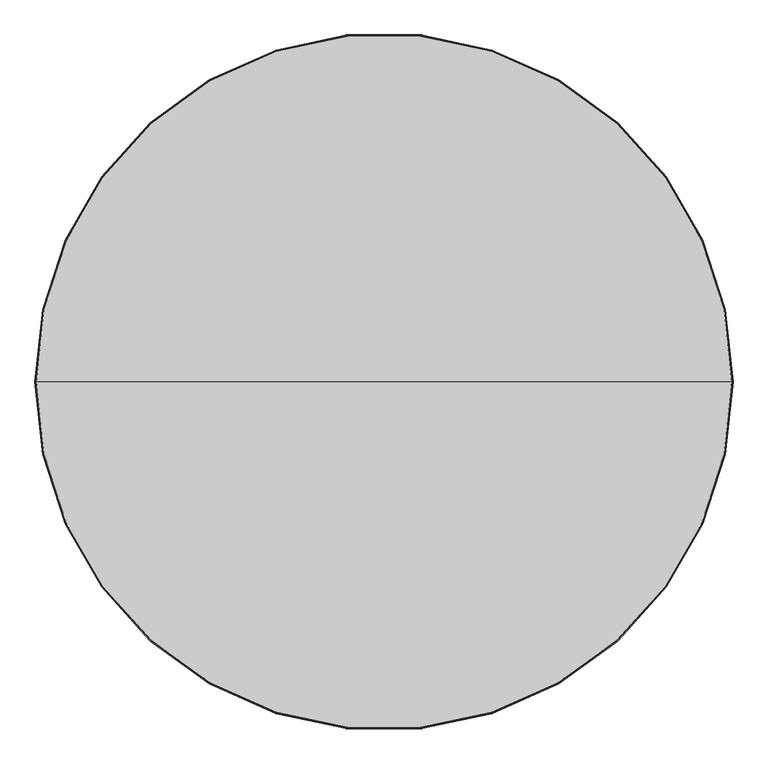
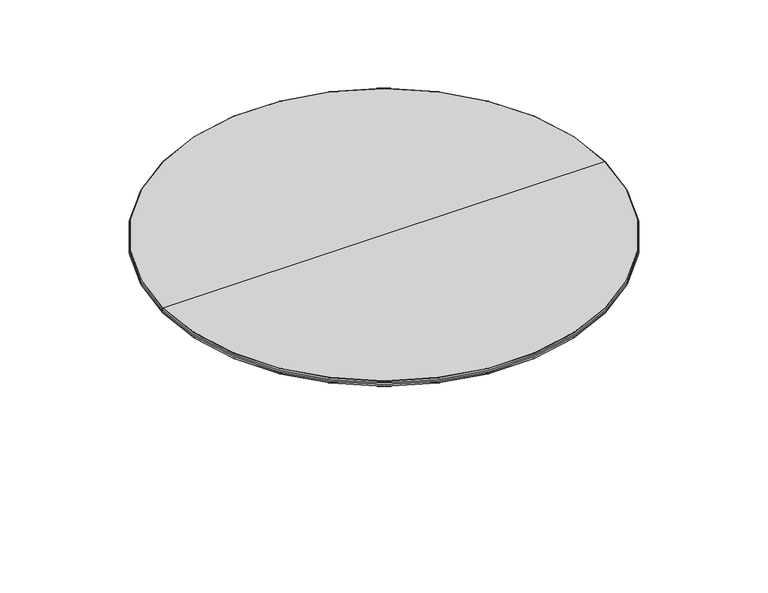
"""IFC4 building model written with IfcOpenShell, lengths in millimetres: furniture geometry, Furniture_Wilkhahn_622-45_Logon Circular Table : Logon 622/45_2000D x 730H."""

from ifc_helpers import new_model, si_unit, point, frame, frame_2d, origin, place, context, project, spatial, circle_curve, ellipse_curve, trimmed, segment, composite_curve, outline, extrude, source, transform, mapped, element, save
from ifc_brep_helpers import plane_surface, revolved_surface, advanced_brep


def furniture_f511a58c(model_context):
    return source(origin(), model_context, "Body", "SolidModel", [
        extrude(outline(composite_curve([segment(trimmed(circle_curve(frame_2d((603.0, 25.9511544)), 20.0), [point((603.0, 5.9511544))], [point((603.0, 45.9511544))], False, "CARTESIAN"), True, "CONTINUOUS"), segment(trimmed(circle_curve(frame_2d((603.0, 25.9511544)), 20.0), [point((603.0, 45.9511544))], [point((603.0, 5.9511544))], False, "CARTESIAN"), True, "CONTINUOUS")], self_intersect=False)), frame((0.0, 0.0, 140.0), z_axis=(0.0, 0.0, 1.0), x_axis=(1.0, 0.0, 0.0)), (0.0, 0.0, 1.0), 535.0),
        extrude(outline(composite_curve([segment(trimmed(circle_curve(frame_2d((497.0, 25.9511544)), 20.0), [point((497.0, 5.9511544))], [point((497.0, 45.9511544))], False, "CARTESIAN"), True, "CONTINUOUS"), segment(trimmed(circle_curve(frame_2d((497.0, 25.9511544)), 20.0), [point((497.0, 45.9511544))], [point((497.0, 5.9511544))], False, "CARTESIAN"), True, "CONTINUOUS")], self_intersect=False)), frame((0.0, 0.0, 140.0), z_axis=(0.0, 0.0, 1.0), x_axis=(1.0, 0.0, 0.0)), (0.0, 0.0, 1.0), 535.0),
        advanced_brep(
        [(0.0, 25.9511544, 703.9999792), (996.2480634, 25.9511544, 703.9999792), (-996.2480634, 25.9511544, 703.9999792), (-996.2480634, 25.9511544, 730.0), (996.2480634, 25.9511544, 730.0), (0.0, 25.9511544, 730.0), (-997.6906196, 25.9511544, 728.7664759), (997.6906196, 25.9511544, 728.7664759), (-998.5009853, 25.9511544, 720.5783163), (998.5009853, 25.9511544, 720.5783163), (-998.5009853, 25.9511544, 713.4216629), (998.5009853, 25.9511544, 713.4216629), (-997.6906196, 25.9511544, 705.2335033), (997.6906196, 25.9511544, 705.2335033)],
        [
            (0, 1),
            (1, 2, circle_curve(frame((0.0, 25.9511544, 703.9999792), z_axis=(0.0, 0.0, -1.0), x_axis=(1.0, 0.0, 0.0)), 996.2480634)),
            (2, 0),
            (2, 1, circle_curve(frame((0.0, 25.9511544, 703.9999792), z_axis=(0.0, 0.0, -1.0), x_axis=(1.0, 0.0, 0.0)), 996.2480634)),
            (3, 4, circle_curve(frame((0.0, 25.9511544, 730.0), z_axis=(0.0, 0.0, 1.0), x_axis=(1.0, 0.0, 0.0)), 996.2480634)),
            (4, 5),
            (5, 3),
            (4, 3, circle_curve(frame((0.0, 25.9511544, 730.0), z_axis=(0.0, 0.0, 1.0), x_axis=(1.0, 0.0, 0.0)), 996.2480634)),
            (6, 7, circle_curve(frame((0.0, 25.9511544, 728.7664759), z_axis=(0.0, 0.0, 1.0), x_axis=(1.0, 0.0, 0.0)), 997.6906196)),
            (7, 4, circle_curve(frame((996.2480634, 25.9511544, 728.5397326), z_axis=(0.0, -1.0, 0.0), x_axis=(-1.0, 0.0, 0.0)), 1.4602674)),
            (3, 6, circle_curve(frame((-996.2480634, 25.9511544, 728.5397326), z_axis=(0.0, -1.0, 0.0), x_axis=(1.0, 0.0, 0.0)), 1.4602674)),
            (7, 6, circle_curve(frame((0.0, 25.9511544, 728.7664759), z_axis=(0.0, 0.0, 1.0), x_axis=(1.0, 0.0, 0.0)), 997.6906196)),
            (8, 9, circle_curve(frame((0.0, 25.9511544, 720.5783163), z_axis=(0.0, 0.0, 1.0), x_axis=(1.0, 0.0, 0.0)), 998.5009853)),
            (9, 7, circle_curve(frame((926.673171, 25.9511544, 717.6038415), z_axis=(0.0, -1.0, 0.0), x_axis=(-1.0, 0.0, 0.0)), 71.8893762)),
            (6, 8, circle_curve(frame((-926.673171, 25.9511544, 717.6038415), z_axis=(0.0, -1.0, 0.0), x_axis=(1.0, 0.0, 0.0)), 71.8893762)),
            (9, 8, circle_curve(frame((0.0, 25.9511544, 720.5783163), z_axis=(0.0, 0.0, 1.0), x_axis=(1.0, 0.0, 0.0)), 998.5009853)),
            (10, 11, circle_curve(frame((0.0, 25.9511544, 713.4216629), z_axis=(0.0, 0.0, 1.0), x_axis=(1.0, 0.0, 0.0)), 998.5009853)),
            (11, 9, circle_curve(frame((995.0306299, 25.9511544, 716.9999896), z_axis=(0.0, -1.0, 0.0), x_axis=(-1.0, 0.0, 0.0)), 4.9847556)),
            (8, 10, circle_curve(frame((-995.0306299, 25.9511544, 716.9999896), z_axis=(0.0, -1.0, 0.0), x_axis=(1.0, 0.0, 0.0)), 4.9847556)),
            (11, 10, circle_curve(frame((0.0, 25.9511544, 713.4216629), z_axis=(0.0, 0.0, 1.0), x_axis=(1.0, 0.0, 0.0)), 998.5009853)),
            (12, 13, circle_curve(frame((0.0, 25.9511544, 705.2335033), z_axis=(0.0, 0.0, 1.0), x_axis=(1.0, 0.0, 0.0)), 997.6906196)),
            (13, 11, circle_curve(frame((926.673171, 25.9511544, 716.3961377), z_axis=(0.0, -1.0, 0.0), x_axis=(-1.0, 0.0, 0.0)), 71.8893762)),
            (10, 12, circle_curve(frame((-926.673171, 25.9511544, 716.3961377), z_axis=(0.0, -1.0, 0.0), x_axis=(1.0, 0.0, 0.0)), 71.8893762)),
            (13, 12, circle_curve(frame((0.0, 25.9511544, 705.2335033), z_axis=(0.0, 0.0, 1.0), x_axis=(1.0, 0.0, 0.0)), 997.6906196)),
            (1, 13, circle_curve(frame((996.2480634, 25.9511544, 705.4602466), z_axis=(0.0, -1.0, 0.0), x_axis=(-1.0, 0.0, 0.0)), 1.4602674)),
            (12, 2, circle_curve(frame((-996.2480634, 25.9511544, 705.4602466), z_axis=(0.0, -1.0, 0.0), x_axis=(1.0, 0.0, 0.0)), 1.4602674)),
        ],
        [
            plane_surface(frame((0.0, 25.9511544, 703.9999792), z_axis=(0.0, 0.0, -1.0), x_axis=(1.0, 0.0, 0.0))),
            plane_surface(frame((0.0, 25.9511544, 730.0), z_axis=(0.0, 0.0, 1.0), x_axis=(1.0, 0.0, 0.0))),
            revolved_surface(trimmed(ellipse_curve(frame((996.2480634, 25.9511544, 728.5397326), z_axis=(0.0, 1.0, 0.0), x_axis=(-1.0, 0.0, 0.0)), 1.4602674, 1.4602674), [point((996.2480634, 25.9511544, 730.0))], [point((997.6906196, 25.9511544, 728.7664759))], True, "CARTESIAN"), (0.0, 25.9511544, 790.0), (0.0, 0.0, -1.0)),
            revolved_surface(trimmed(ellipse_curve(frame((926.673171, 25.9511544, 717.6038415), z_axis=(0.0, 1.0, 0.0), x_axis=(-1.0, 0.0, 0.0)), 71.8893762, 71.8893762), [point((997.6906196, 25.9511544, 728.7664759))], [point((998.5009853, 25.9511544, 720.5783163))], True, "CARTESIAN"), (0.0, 25.9511544, 790.0), (0.0, 0.0, -1.0)),
            revolved_surface(trimmed(ellipse_curve(frame((995.0306299, 25.9511544, 716.9999896), z_axis=(0.0, 1.0, 0.0), x_axis=(-1.0, 0.0, 0.0)), 4.9847556, 4.9847556), [point((998.5009853, 25.9511544, 720.5783163))], [point((998.5009853, 25.9511544, 713.4216629))], True, "CARTESIAN"), (0.0, 25.9511544, 790.0), (0.0, 0.0, -1.0)),
            revolved_surface(trimmed(ellipse_curve(frame((926.673171, 25.9511544, 716.3961377), z_axis=(0.0, 1.0, 0.0), x_axis=(-1.0, 0.0, 0.0)), 71.8893762, 71.8893762), [point((998.5009853, 25.9511544, 713.4216629))], [point((997.6906196, 25.9511544, 705.2335033))], True, "CARTESIAN"), (0.0, 25.9511544, 790.0), (0.0, 0.0, -1.0)),
            revolved_surface(trimmed(ellipse_curve(frame((996.2480634, 25.9511544, 705.4602466), z_axis=(0.0, 1.0, 0.0), x_axis=(-1.0, 0.0, 0.0)), 1.4602674, 1.4602674), [point((997.6906196, 25.9511544, 705.2335033))], [point((996.2480634, 25.9511544, 703.9999792))], True, "CARTESIAN"), (0.0, 25.9511544, 790.0), (0.0, 0.0, -1.0)),
        ],
        [
            (0, [[1, 2, 3]]),
            (0, [[-3, 4, -1]]),
            (1, [[5, 6, 7]]),
            (1, [[8, -7, -6]]),
            (2, [[9, 10, -5, 11]]),
            (2, [[12, -11, -8, -10]]),
            (3, [[13, 14, -9, 15]]),
            (3, [[16, -15, -12, -14]]),
            (4, [[17, 18, -13, 19]]),
            (4, [[20, -19, -16, -18]]),
            (5, [[21, 22, -17, 23]]),
            (5, [[24, -23, -20, -22]]),
            (6, [[-2, 25, -21, 26]]),
            (6, [[-4, -26, -24, -25]]),
        ],
    ),
    ])


if __name__ == "__main__":
    model = new_model("IFC4")
    model_context = context("Model", 3, world=origin())
    ifc_project = project(units=[si_unit("LENGTHUNIT", "METRE", prefix="MILLI")], contexts=[model_context])
    site = spatial("IfcSite", under=ifc_project)
    building = spatial("IfcBuilding", under=site)
    placement = place(None, origin())
    furniture_shape = furniture_f511a58c(model_context)
    element("IfcFurniture", 1, ObjectType="Furniture_Wilkhahn_622-45_Logon Circular Table : Logon 622/45_2000D x 730H", at=placement, inside=building, context=model_context, shape_type="MappedRepresentation", body=[
        mapped(furniture_shape, transform((0.0, 0.0, 0.0), x_axis=(1.0, 0.0, 0.0), y_axis=(0.0, 1.0, 0.0), z_axis=(0.0, 0.0, 1.0))),
    ])
    save(model, "model.ifc")
